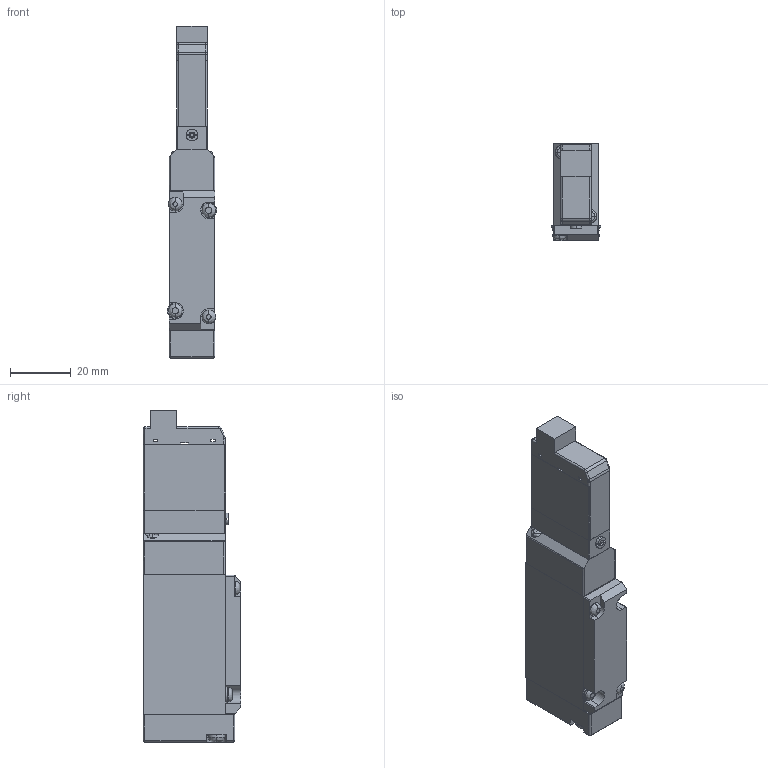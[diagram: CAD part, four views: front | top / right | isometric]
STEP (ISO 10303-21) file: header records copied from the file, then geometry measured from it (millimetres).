
FILE_DESCRIPTION( (''), '2;1');
FILE_NAME ('CVICAD02.3360.F15T0-A1-PN_21370.stp','2021-07-12T19:12:12',(''),(''),'spGate 12.6.6','','');
FILE_SCHEMA (('AUTOMOTIVE_DESIGN'));
Length unit declared in the file: millimetre
Products named in the file (7): Assembly; CVICAD02-prt0; CVICAD02-prt1; CVICAD02-prt2; CVICAD02-prt3; CVICAD02-prt4; CVICAD02-prt5
Assembly tree (6 placements, depth 2):
  Assembly
    CVICAD02-prt0
    CVICAD02-prt1
    CVICAD02-prt2
    CVICAD02-prt3
    CVICAD02-prt4
    CVICAD02-prt5
Bounding box: 16.2 x 32 x 109 mm (x, y, z)
Volume: 40107.1 mm3; surface area: 15333.5 mm2
Topology: 6 solids, 6 shells, 264 faces, 666 edges, 421 vertices
Faces by surface type: plane 129, cylinder 104, bspline 26, sphere 5
Entity records: 13714 total; most frequent: CARTESIAN_POINT 2072, ORIENTED_EDGE 1314, DIRECTION 1259, COLOUR_RGB 927, PRESENTATION_STYLE_ASSIGNMENT 927, STYLED_ITEM 927, EDGE_CURVE 657, DRAUGHTING_PRE_DEFINED_CURVE_FONT 657
